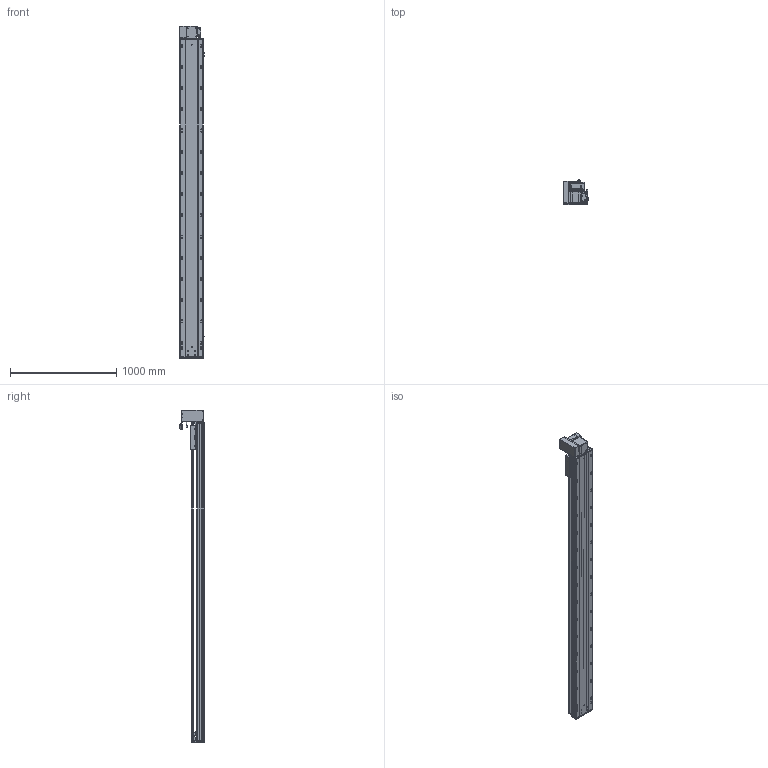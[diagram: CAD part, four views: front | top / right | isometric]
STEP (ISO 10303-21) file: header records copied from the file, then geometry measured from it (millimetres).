
FILE_DESCRIPTION (( 'STEP AP203' ), '1' );
FILE_NAME ('RY220-T-300-UL.SLDASM_2650.step', '2022-07-25T08:35:52', ( '' ), ( '' ), 'SwSTEP 2.0', 'SolidWorks 2016', '' );
FILE_SCHEMA (( 'CONFIG_CONTROL_DESIGN' ));
Length unit declared in the file: millimetre
Products named in the file (14): RY220-T-蛌殏萇儂假蚾啣(750W); 110A-T-肮祭謫釱傷裔; RY220-T-300-UL.SLDASM_2650; RY220-T-300-奻裔啣_2650; RY220-T-湍謫欶(鍼踢); RY220-T菁釱-300_2650; RY220圉猾敕々湍臏賑輸; RY220翋肮祭謫裔啣; 怢湛750W_ECMA-CX0807ES; 滅袉蝶18-15; RY220翋肮祭謫釱; RY220-同步轮副支撑座6304×2; 覜茼ん672; RY220-俋离672覜茼んえ
Assembly tree (18 placements, depth 2):
  RY220-T-300-UL.SLDASM_2650
    RY220-T菁釱-300_2650
    RY220翋肮祭謫釱
    覜茼ん672  x3
    RY220圉猾敕々湍臏賑輸
    RY220-T-300-奻裔啣_2650
    RY220-俋离672覜茼んえ
    滅袉蝶18-15  x3
    RY220翋肮祭謫裔啣  x2
    110A-T-肮祭謫釱傷裔
    怢湛750W_ECMA-CX0807ES
    RY220-T-湍謫欶(鍼踢)
    RY220-T-蛌殏萇儂假蚾啣(750W)
    RY220-同步轮副支撑座6304×2
Bounding box: 239.7 x 231.74 x 3130.5 mm (x, y, z)
Volume: 22935022 mm3; surface area: 7061460.5 mm2
Topology: 19 solids, 19 shells, 2966 faces, 8207 edges, 5148 vertices
Faces by surface type: cylinder 1458, plane 1069, cone 357, bspline 56, sphere 16, torus 10
Entity records: 98995 total; most frequent: CARTESIAN_POINT 27985, ORIENTED_EDGE 14682, DIRECTION 14144, EDGE_CURVE 7341, AXIS2_PLACEMENT_3D 5096, VERTEX_POINT 4772, LINE 3952, VECTOR 3952
